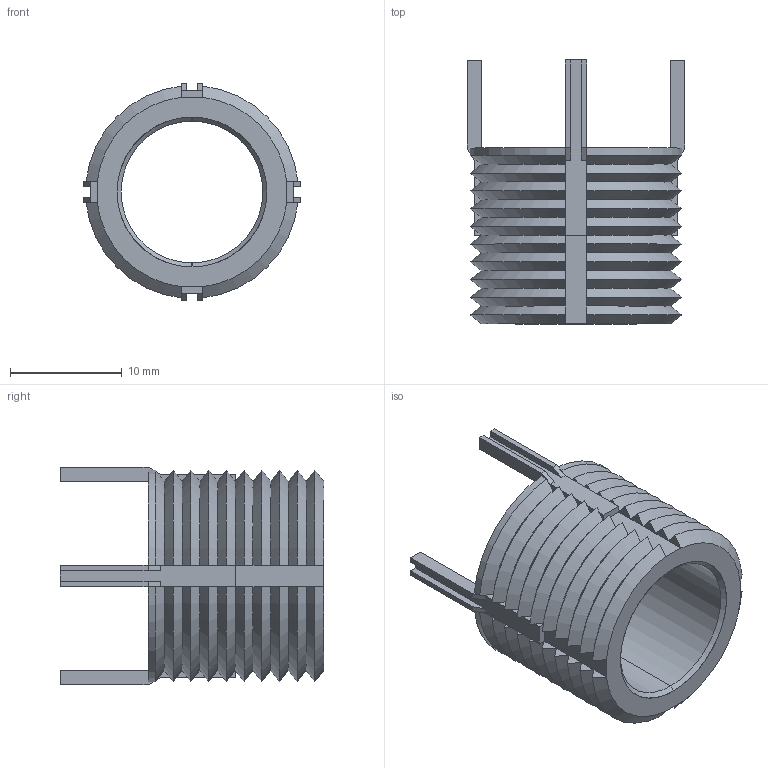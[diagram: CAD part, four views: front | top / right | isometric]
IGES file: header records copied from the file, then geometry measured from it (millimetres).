
Start section: SolidWorks IGES file using analytic representation for surfaces
Global section: file name: C:\Users\IanO\Desktop\TR1575\TR1575_v2_20230420_IGES\TR1575.65906.igs; native system: SolidWorks 2019; preprocessor: SolidWorks 2019; author: IanO; date: 230420.093126; units: inch
Bounding box: 19.5 x 23.62 x 19.5 mm (x, y, z)
Surface area: 2687.4 mm2 (no closed solid volume)
Topology: 0 solids, 0 shells, 220 faces, 1064 edges, 1064 vertices
Faces by surface type: bspline 134, revolution 86
